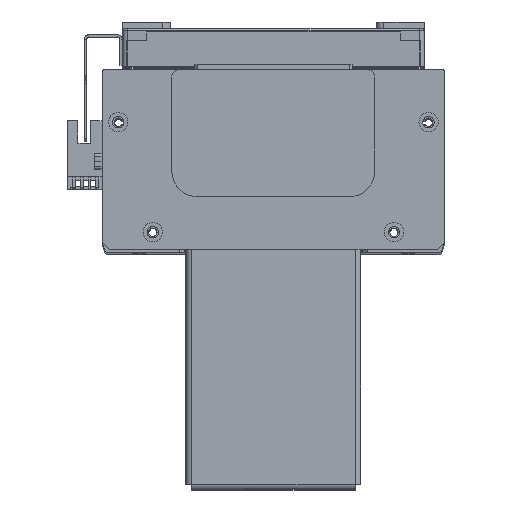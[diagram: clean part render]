
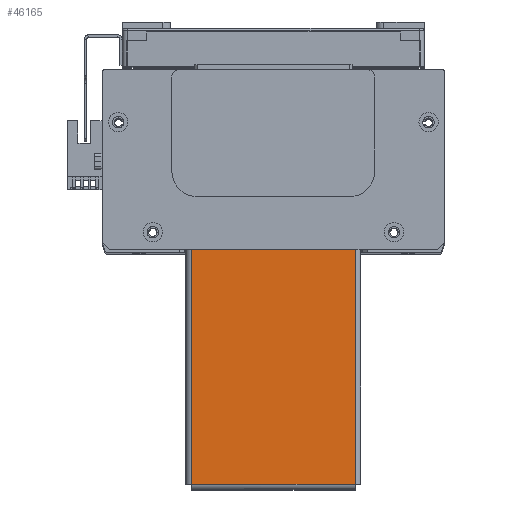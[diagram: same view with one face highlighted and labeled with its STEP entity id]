
A CAD part, top view. The second image highlights one B-rep face of the part: STEP entity #46165.
In plain terms, the highlighted planar face has unit normal (0, 0, 1) as drawn and (0, -1, 0) by its records, which use the part's own axes.
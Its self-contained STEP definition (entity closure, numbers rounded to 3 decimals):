
#2596 = ORIENTED_EDGE ( 'NONE', *, *, #41232, .T. ) ;
#2652 = ORIENTED_EDGE ( 'NONE', *, *, #41229, .T. ) ;
#2664 = ORIENTED_EDGE ( 'NONE', *, *, #41223, .F. ) ;
#2702 = ORIENTED_EDGE ( 'NONE', *, *, #41312, .T. ) ;
#3669 = VERTEX_POINT ( 'NONE', #56831 ) ;
#3764 = VERTEX_POINT ( 'NONE', #56881 ) ;
#3767 = VERTEX_POINT ( 'NONE', #56924 ) ;
#3806 = VERTEX_POINT ( 'NONE', #56361 ) ;
#8808 = AXIS2_PLACEMENT_3D ( 'NONE', #32330, #32350, #32346 ) ;
#25306 = FACE_OUTER_BOUND ( 'NONE', #52308, .T. ) ;
#32316 = PLANE ( 'NONE',  #8808 ) ;
#32330 = CARTESIAN_POINT ( 'NONE',  ( 0., -1.5, 0. ) ) ;
#32346 = DIRECTION ( 'NONE',  ( 0., 0., 1. ) ) ;
#32350 = DIRECTION ( 'NONE',  ( 0., 1., 0. ) ) ;
#39156 = CARTESIAN_POINT ( 'NONE',  ( -94.763, -1.5, 32.293 ) ) ;
#39172 = CARTESIAN_POINT ( 'NONE',  ( -94.793, -1.5, -32.263 ) ) ;
#39176 = DIRECTION ( 'NONE',  ( 0., 0., -1. ) ) ;
#39178 = CARTESIAN_POINT ( 'NONE',  ( -2., -1.5, 34.5 ) ) ;
#39187 = DIRECTION ( 'NONE',  ( 1., 0., 0. ) ) ;
#39202 = DIRECTION ( 'NONE',  ( 0., 0., -1. ) ) ;
#39447 = DIRECTION ( 'NONE',  ( -1., 0., 0. ) ) ;
#39450 = CARTESIAN_POINT ( 'NONE',  ( 94.793, -1.5, 32.263 ) ) ;
#41223 = EDGE_CURVE ( 'NONE', #3806, #3669, #54568, .T. ) ;
#41229 = EDGE_CURVE ( 'NONE', #3764, #3669, #54517, .T. ) ;
#41232 = EDGE_CURVE ( 'NONE', #3767, #3764, #54555, .T. ) ;
#41312 = EDGE_CURVE ( 'NONE', #3806, #3767, #54654, .T. ) ;
#46165 = ADVANCED_FACE ( 'NONE', ( #25306 ), #32316, .F. ) ;
#52308 = EDGE_LOOP ( 'NONE', ( #2652, #2664, #2702, #2596 ) ) ;
#54511 = VECTOR ( 'NONE', #39187, 1000. ) ;
#54517 = LINE ( 'NONE', #39172, #54511 ) ;
#54532 = VECTOR ( 'NONE', #39176, 1000. ) ;
#54542 = VECTOR ( 'NONE', #39202, 1000. ) ;
#54555 = LINE ( 'NONE', #39156, #54542 ) ;
#54568 = LINE ( 'NONE', #39178, #54532 ) ;
#54654 = LINE ( 'NONE', #39450, #54658 ) ;
#54658 = VECTOR ( 'NONE', #39447, 1000. ) ;
#56361 = CARTESIAN_POINT ( 'NONE',  ( -2., -1.5, 32.263 ) ) ;
#56831 = CARTESIAN_POINT ( 'NONE',  ( -2., -1.5, -32.263 ) ) ;
#56881 = CARTESIAN_POINT ( 'NONE',  ( -94.763, -1.5, -32.263 ) ) ;
#56924 = CARTESIAN_POINT ( 'NONE',  ( -94.763, -1.5, 32.263 ) ) ;
